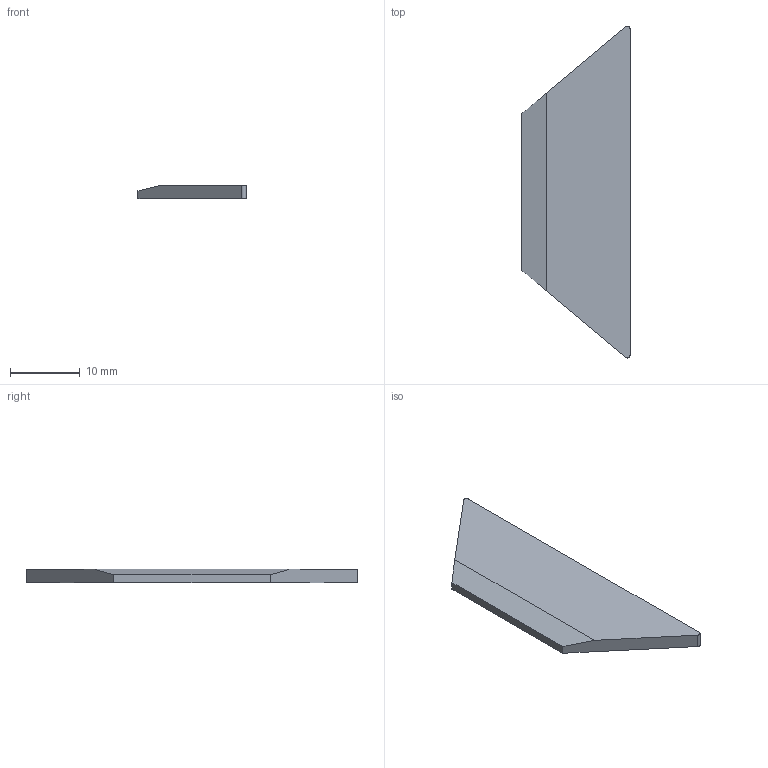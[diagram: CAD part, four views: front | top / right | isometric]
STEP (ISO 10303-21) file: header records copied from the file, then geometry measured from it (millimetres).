
FILE_DESCRIPTION(('Open CASCADE Model'),'2;1');
FILE_NAME('Open CASCADE Shape Model','2026-10-15T18:27:22',('Author'),( 'Open CASCADE'),'Open CASCADE STEP processor 7.9','Open CASCADE 7.9' ,'Unknown');
FILE_SCHEMA(('AUTOMOTIVE_DESIGN { 1 0 10303 214 1 1 1 1 }'));
Length unit declared in the file: millimetre
Products named in the file (1): Open CASCADE STEP translator 7.9 15
Bounding box: 15.5 x 47.64 x 2 mm (x, y, z)
Volume: 1066.1 mm3; surface area: 1301.2 mm2
Topology: 1 solids, 1 shells, 9 faces, 21 edges, 14 vertices
Faces by surface type: plane 7, cylinder 2
Entity records: 530 total; most frequent: CARTESIAN_POINT 99, DIRECTION 75, LINE 43, VECTOR 43, ORIENTED_EDGE 42, PCURVE 42, DEFINITIONAL_REPRESENTATION 42, EDGE_CURVE 21
